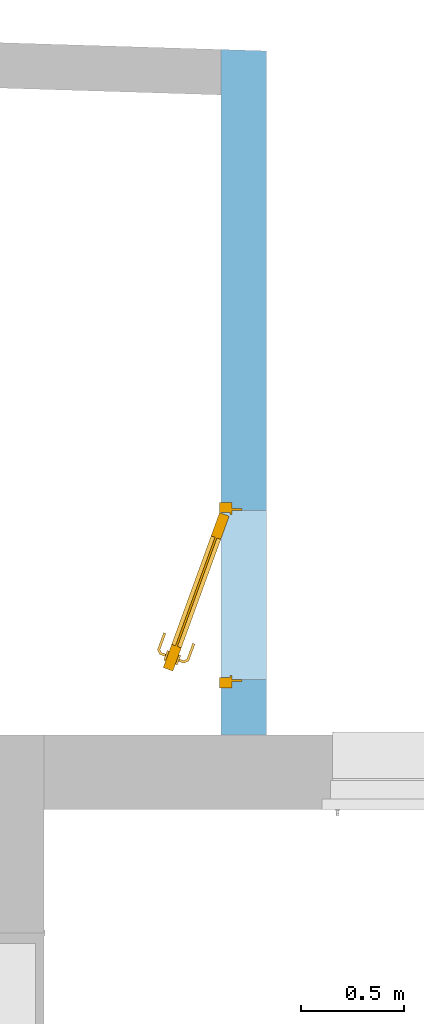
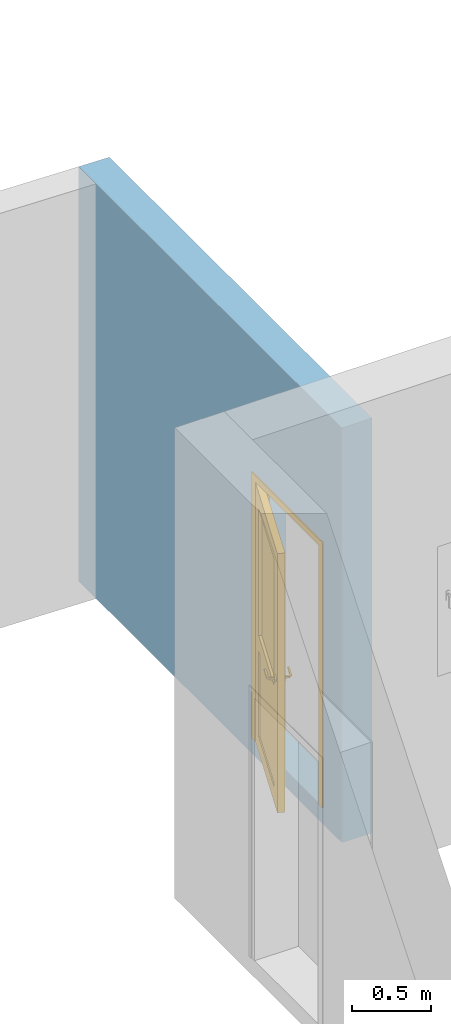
"""IFC2X3 building model written with IfcOpenShell, lengths in centimetres."""

from ifc_helpers import new_model, entity, si_unit, converted_unit, derived_unit, direction, frame, origin, place, context, subcontext, project, spatial, polyline, outline, extrude, faceted_brep, source, transform, mapped, material, material_list, layer, layer_set, layer_usage, type_object, type_shapes, element, fill, save


model = new_model("IFC2X3")

# Units and contexts
model_context = context("Model", 3, precision=0.001, world=origin(), true_north=direction((6.123031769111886e-17, 1.0)))
body_context = subcontext(model_context, "Body", "Model", "MODEL_VIEW")
ifc_project = project(units=[si_unit("LENGTHUNIT", "METRE", prefix="CENTI"), si_unit("AREAUNIT", "SQUARE_METRE"), si_unit("VOLUMEUNIT", "CUBIC_METRE"), converted_unit("PLANEANGLEUNIT", "DEGREE", entity("IfcRatioMeasure", 0.017453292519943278), si_unit("PLANEANGLEUNIT", "RADIAN"), dimensions=[0, 0, 0, 0, 0, 0, 0]), si_unit("MASSUNIT", "GRAM", prefix="KILO"), derived_unit("MASSDENSITYUNIT", [(si_unit("MASSUNIT", "GRAM", prefix="KILO"), 1), (si_unit("LENGTHUNIT", "METRE"), -3)]), derived_unit("MOMENTOFINERTIAUNIT", [(si_unit("LENGTHUNIT", "METRE"), 4)]), si_unit("TIMEUNIT", "SECOND"), si_unit("FREQUENCYUNIT", "HERTZ"), si_unit("THERMODYNAMICTEMPERATUREUNIT", "DEGREE_CELSIUS"), derived_unit("THERMALTRANSMITTANCEUNIT", [(si_unit("MASSUNIT", "GRAM", prefix="KILO"), 1), (si_unit("THERMODYNAMICTEMPERATUREUNIT", "KELVIN"), -1), (si_unit("TIMEUNIT", "SECOND"), -3)]), derived_unit("THERMALCONDUCTANCEUNIT", [(si_unit("MASSUNIT", "GRAM", prefix="KILO"), 1), (si_unit("LENGTHUNIT", "METRE"), 1), (si_unit("THERMODYNAMICTEMPERATUREUNIT", "KELVIN"), -1), (si_unit("TIMEUNIT", "SECOND"), -3)]), derived_unit("VOLUMETRICFLOWRATEUNIT", [(si_unit("LENGTHUNIT", "METRE"), 3), (si_unit("TIMEUNIT", "SECOND"), -1)]), derived_unit("MASSFLOWRATEUNIT", [(si_unit("MASSUNIT", "GRAM", prefix="KILO"), 1), (si_unit("TIMEUNIT", "SECOND"), -1)]), derived_unit("ROTATIONALFREQUENCYUNIT", [(si_unit("TIMEUNIT", "SECOND"), -1)]), si_unit("ELECTRICCURRENTUNIT", "AMPERE"), si_unit("ELECTRICVOLTAGEUNIT", "VOLT"), si_unit("POWERUNIT", "WATT"), si_unit("FORCEUNIT", "NEWTON", prefix="KILO"), si_unit("ILLUMINANCEUNIT", "LUX"), si_unit("LUMINOUSFLUXUNIT", "LUMEN"), si_unit("LUMINOUSINTENSITYUNIT", "CANDELA"), derived_unit("USERDEFINED", [(si_unit("MASSUNIT", "GRAM", prefix="KILO"), -1), (si_unit("LENGTHUNIT", "METRE"), -2), (si_unit("TIMEUNIT", "SECOND"), 3), (si_unit("LUMINOUSFLUXUNIT", "LUMEN"), 1)]), derived_unit("USERDEFINED", [(si_unit("MASSUNIT", "GRAM", prefix="KILO"), 1), (si_unit("LENGTHUNIT", "METRE"), 3), (si_unit("TIMEUNIT", "SECOND"), -3), (si_unit("ELECTRICCURRENTUNIT", "AMPERE"), -2)]), derived_unit("USERDEFINED", [(si_unit("LENGTHUNIT", "METRE"), 2), (si_unit("TIMEUNIT", "SECOND"), -2)]), derived_unit("SOUNDPOWERUNIT", [(si_unit("MASSUNIT", "GRAM", prefix="KILO"), 1), (si_unit("LENGTHUNIT", "METRE"), 2), (si_unit("TIMEUNIT", "SECOND"), -3)]), derived_unit("SOUNDPRESSUREUNIT", [(si_unit("MASSUNIT", "GRAM", prefix="KILO"), 1), (si_unit("LENGTHUNIT", "METRE"), -1), (si_unit("TIMEUNIT", "SECOND"), -2)]), derived_unit("LINEARVELOCITYUNIT", [(si_unit("LENGTHUNIT", "METRE"), 1), (si_unit("TIMEUNIT", "SECOND"), -1)]), si_unit("PRESSUREUNIT", "PASCAL"), derived_unit("USERDEFINED", [(si_unit("LENGTHUNIT", "METRE"), -2), (si_unit("MASSUNIT", "GRAM", prefix="KILO"), 1), (si_unit("TIMEUNIT", "SECOND"), -2)]), derived_unit("LINEARFORCEUNIT", [(si_unit("MASSUNIT", "GRAM", prefix="KILO"), 1), (si_unit("LENGTHUNIT", "METRE"), 1), (si_unit("TIMEUNIT", "SECOND"), -2), (si_unit("LENGTHUNIT", "METRE"), -1)]), derived_unit("PLANARFORCEUNIT", [(si_unit("MASSUNIT", "GRAM", prefix="KILO"), 1), (si_unit("LENGTHUNIT", "METRE"), 1), (si_unit("TIMEUNIT", "SECOND"), -2), (si_unit("LENGTHUNIT", "METRE"), -2)]), derived_unit("SPECIFICHEATCAPACITYUNIT", [(si_unit("LENGTHUNIT", "METRE"), 2), (si_unit("TIMEUNIT", "SECOND"), -2), (si_unit("THERMODYNAMICTEMPERATUREUNIT", "KELVIN"), -1)]), derived_unit("VAPORPERMEABILITYUNIT", [(si_unit("TIMEUNIT", "SECOND"), 1), (si_unit("LENGTHUNIT", "METRE"), -1)]), derived_unit("DYNAMICVISCOSITYUNIT", [(si_unit("MASSUNIT", "GRAM", prefix="KILO"), 1), (si_unit("LENGTHUNIT", "METRE"), -1), (si_unit("TIMEUNIT", "SECOND"), -1)]), derived_unit("THERMALEXPANSIONCOEFFICIENTUNIT", [(si_unit("THERMODYNAMICTEMPERATUREUNIT", "KELVIN"), -1)])], contexts=[model_context])

# Site, building, storey
site_placement = place(None, origin())
site = spatial("IfcSite", under=ifc_project, at=site_placement, Name="Default", CompositionType="ELEMENT")
building_placement = place(site_placement, origin())
building = spatial("IfcBuilding", under=site, at=building_placement, CompositionType="ELEMENT")
storey_1_placement = place(building_placement, frame((0.0, 0.0, -13.0)))
storey_1 = spatial("IfcBuildingStorey", under=building, at=storey_1_placement, Name="0_-0.13", CompositionType="ELEMENT", Elevation=-13.000000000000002)

# Wall, opening
ifc_material_1 = material(Name="Maçonnerie - Enduit")
ifc_layer_1 = layer(ifc_material_1, 2.0)
ifc_material_2 = material(Name="Maçonnerie - Béton")
ifc_layer_2 = layer(ifc_material_2, 20.0)
ifc_layer_set = layer_set([ifc_layer_1, ifc_layer_2], Name="Mur de base:Mur extérieur 22cm")
ifc_layer_usage = layer_usage(ifc_layer_set, "AXIS2", "POSITIVE", -11.0)
wall_type = type_object("IfcWallType", Name="Mur de base:Mur extérieur 22cm", PredefinedType="STANDARD", material=ifc_layer_set)
wall_placement = place(storey_1_placement, frame((-589.0684437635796, 378.64664587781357, 0.0), z_axis=(0.0, 0.0, 1.0), x_axis=(0.0, 1.0, 0.0)))
wall = element("IfcWallStandardCase", 1, at=wall_placement, inside=storey_1, type_object=wall_type, material=ifc_layer_usage, Name="Mur de base:Mur extérieur 22cm", ObjectType="Mur de base:Mur extérieur 22cm", context=body_context, shape_type="SweptSolid", body=[
    extrude(outline(polyline([(332.0, -11.0), (332.6818181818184, 11.0), (310.67125535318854, 11.0), (0.0, 11.0), (0.0, -11.0), (332.0, -11.0)])), origin(), (0.0, 0.0, 1.0), 320.0),
])
opening_placement = place(wall_placement, frame((23.0, 41.0, 13.0), z_axis=(0.0, 0.0, 1.0), x_axis=(0.0, -1.0, 0.0)))
opening = element("IfcOpeningElement", 2, at=opening_placement, cuts=wall, Name="Mur de base:Mur extérieur 22cm", ObjectType="Opening", context=body_context, shape_type="Brep", body=[
    faceted_brep([(0.0, 86.0, 201.0), (0.0, 4.0, 201.0), (29.200000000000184, 4.0, 201.0), (29.20000000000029, 86.0, 201.0), (82.0, 86.0, 0.0), (82.0, 4.0, 0.0), (40.0, 4.0, 0.0), (40.0, 3.0, 0.0), (35.20000000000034, 3.0, 0.0), (35.20000000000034, 0.0, 0.0), (29.200000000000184, 0.0, 0.0), (29.200000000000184, 4.0, 0.0), (0.0, 4.0, 0.0), (0.0, 86.0, 0.0), (29.20000000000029, 86.0, 0.0), (29.20000000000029, 90.0, 0.0), (35.20000000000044, 90.0, 0.0), (35.20000000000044, 87.0, 0.0), (40.0, 87.0, 0.0), (40.0, 86.0, 0.0), (82.0, 86.0, 201.0), (82.0, 4.0, 201.0), (40.0, 4.0, 201.0), (35.20000000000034, 3.0, 202.0), (35.20000000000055, 87.0, 202.0), (35.20000000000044, 90.0, 205.0), (35.20000000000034, 0.0, 205.0), (40.0, 3.0, 202.0), (40.0, 86.0, 201.0), (40.0, 87.0, 202.0), (29.200000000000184, 0.0, 205.0), (29.2000000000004, 90.0, 205.0)], [[[0, 1, 2, 3]], [[4, 5, 6, 7, 8, 9, 10, 11, 12, 13, 14, 15, 16, 17, 18, 19]], [[13, 0, 3, 14]], [[20, 21, 5, 4]], [[5, 21, 22, 6]], [[1, 0, 13, 12]], [[9, 8, 23, 24, 17, 16, 25, 26]], [[8, 7, 27, 23]], [[7, 6, 22, 28, 19, 18, 29, 27]], [[11, 10, 30, 31, 15, 14, 3, 2]], [[10, 9, 26, 30]], [[24, 23, 27, 29]], [[26, 25, 31, 30]], [[17, 24, 29, 18]], [[25, 16, 15, 31]], [[1, 12, 11, 2]], [[20, 4, 19, 28]], [[21, 20, 28, 22]]]),
])

# Storey
storey_2_placement = place(building_placement, origin())
storey_2 = spatial("IfcBuildingStorey", under=building, at=storey_2_placement, Name="1_Rez-de-chaussée", CompositionType="ELEMENT", Elevation=0.0)

# Door
ifc_material_3 = material(Name="PVC - Blanc")
ifc_material_4 = material(Name="Verre")
ifc_material_list = material_list([ifc_material_3, ifc_material_4])
door_style = type_object("IfcDoorStyle", Name="Ext. Simple:Vitrée haut - 0.80 m x 2.00 m", ConstructionType="NOTDEFINED", OperationType="SINGLE_SWING_LEFT", ParameterTakesPrecedence=False, Sizeable=False, material=ifc_material_list)
shared_shape = source(origin(), body_context, "Body", "Brep", [
    faceted_brep([(74.53407623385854, 27.155428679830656, 98.23223304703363), (75.02061801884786, 26.978341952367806, 97.83493649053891), (75.58720792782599, 26.772120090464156, 97.58518543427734), (76.19523379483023, 26.55081677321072, 97.5), (76.80325966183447, 26.32951345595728, 97.58518543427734), (77.3698495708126, 26.12329159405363, 97.83493649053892), (77.8563913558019, 25.946204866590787, 98.23223304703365), (78.22972799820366, 25.81032144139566, 98.75000000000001), (78.46441722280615, 25.724901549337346, 99.35295238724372), (78.544465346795, 25.69576641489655, 100.0), (78.46441722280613, 25.724901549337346, 100.64704761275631), (78.22972799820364, 25.810321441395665, 101.25), (77.8563913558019, 25.946204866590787, 101.76776695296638), (77.3698495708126, 26.123291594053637, 102.1650635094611), (76.80325966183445, 26.32951345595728, 102.41481456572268), (76.19523379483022, 26.550816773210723, 102.5), (75.58720792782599, 26.772120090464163, 102.41481456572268), (75.02061801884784, 26.978341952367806, 102.1650635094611), (74.53407623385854, 27.155428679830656, 101.76776695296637), (74.16073959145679, 27.291312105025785, 101.25), (73.9260503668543, 27.376731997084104, 100.64704761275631), (73.84600224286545, 27.405867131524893, 100.0), (73.92605036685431, 27.376731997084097, 99.35295238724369), (74.16073959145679, 27.291312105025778, 98.74999999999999), (76.5372539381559, 27.490509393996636, 102.5), (77.14527980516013, 27.26920607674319, 102.41481456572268), (77.71186971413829, 27.06298421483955, 102.1650635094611), (78.19841149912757, 26.885897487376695, 101.76776695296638), (78.57174814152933, 26.750014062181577, 101.25), (78.80643736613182, 26.664594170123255, 100.64704761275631), (78.88648549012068, 26.63545903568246, 100.0), (78.80643736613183, 26.664594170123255, 99.35295238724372), (78.57174814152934, 26.75001406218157, 98.75000000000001), (78.19841149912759, 26.885897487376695, 98.23223304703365), (77.71186971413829, 27.062984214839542, 97.83493649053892), (77.14527980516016, 27.26920607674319, 97.58518543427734), (76.53725393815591, 27.49050939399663, 97.5), (75.92922807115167, 27.71181271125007, 97.58518543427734), (75.36263816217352, 27.918034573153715, 97.83493649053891), (74.87609637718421, 28.09512130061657, 98.23223304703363), (74.50275973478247, 28.231004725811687, 98.74999999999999), (74.26807051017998, 28.31642461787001, 99.35295238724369), (74.18802238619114, 28.345559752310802, 100.0), (74.26807051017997, 28.316424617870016, 100.64704761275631), (74.50275973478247, 28.231004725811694, 101.25), (74.87609637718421, 28.09512130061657, 101.76776695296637), (75.36263816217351, 27.918034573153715, 102.1650635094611), (75.92922807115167, 27.711812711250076, 102.41481456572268)], [[[0, 1, 2, 3, 4, 5, 6, 7, 8, 9, 10, 11, 12, 13, 14, 15, 16, 17, 18, 19, 20, 21, 22, 23]], [[24, 25, 26, 27, 28, 29, 30, 31, 32, 33, 34, 35, 36, 37, 38, 39, 40, 41, 42, 43, 44, 45, 46, 47]], [[30, 9, 8, 31]], [[31, 8, 7, 32]], [[34, 33, 6, 5]], [[6, 33, 32, 7]], [[35, 34, 5, 4]], [[35, 4, 3, 36]], [[36, 3, 2, 37]], [[37, 2, 1, 38]], [[40, 39, 0, 23]], [[0, 39, 38, 1]], [[41, 40, 23, 22]], [[41, 22, 21, 42]], [[42, 21, 20, 43]], [[43, 20, 19, 44]], [[46, 45, 18, 17]], [[18, 45, 44, 19]], [[47, 46, 17, 16]], [[47, 16, 15, 24]], [[24, 15, 14, 25]], [[25, 14, 13, 26]], [[28, 27, 12, 11]], [[12, 27, 26, 13]], [[29, 28, 11, 10]], [[29, 10, 9, 30]]]),
    faceted_brep([(76.58619709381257, 32.79358440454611, 98.23223304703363), (77.07273887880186, 32.61649767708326, 97.83493649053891), (77.63932878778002, 32.41027581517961, 97.58518543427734), (78.24735465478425, 32.18897249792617, 97.5), (78.85538052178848, 31.96766918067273, 97.58518543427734), (79.42197043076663, 31.761447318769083, 97.83493649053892), (79.90851221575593, 31.584360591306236, 98.23223304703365), (80.28184885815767, 31.44847716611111, 98.75000000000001), (80.51653808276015, 31.363057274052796, 99.35295238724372), (80.59658620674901, 31.333922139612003, 100.0), (80.51653808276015, 31.363057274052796, 100.64704761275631), (80.28184885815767, 31.448477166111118, 101.25), (79.90851221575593, 31.584360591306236, 101.76776695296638), (79.4219704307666, 31.76144731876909, 102.1650635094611), (78.85538052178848, 31.96766918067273, 102.41481456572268), (78.24735465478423, 32.18897249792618, 102.5), (77.63932878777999, 32.41027581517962, 102.41481456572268), (77.07273887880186, 32.61649767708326, 102.1650635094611), (76.58619709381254, 32.79358440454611, 101.76776695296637), (76.2128604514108, 32.929467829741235, 101.25), (75.97817122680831, 33.01488772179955, 100.64704761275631), (75.89812310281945, 33.044022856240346, 100.0), (75.97817122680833, 33.01488772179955, 99.35295238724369), (76.2128604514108, 32.92946782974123, 98.74999999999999), (78.5893747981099, 33.128665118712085, 102.5), (79.19740066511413, 32.90736180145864, 102.41481456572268), (79.76399057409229, 32.701139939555, 102.1650635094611), (80.25053235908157, 32.52405321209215, 101.76776695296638), (80.62386900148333, 32.38816978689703, 101.25), (80.85855822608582, 32.302749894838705, 100.64704761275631), (80.93860635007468, 32.27361476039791, 100.0), (80.85855822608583, 32.302749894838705, 99.35295238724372), (80.62386900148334, 32.38816978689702, 98.75000000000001), (80.25053235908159, 32.52405321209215, 98.23223304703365), (79.76399057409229, 32.70113993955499, 97.83493649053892), (79.19740066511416, 32.90736180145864, 97.58518543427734), (78.58937479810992, 33.12866511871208, 97.5), (77.98134893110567, 33.34996843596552, 97.58518543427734), (77.41475902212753, 33.55619029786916, 97.83493649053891), (76.92821723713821, 33.73327702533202, 98.23223304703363), (76.55488059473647, 33.86916045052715, 98.74999999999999), (76.320191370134, 33.954580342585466, 99.35295238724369), (76.24014324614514, 33.98371547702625, 100.0), (76.32019137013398, 33.954580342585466, 100.64704761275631), (76.55488059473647, 33.86916045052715, 101.25), (76.92821723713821, 33.73327702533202, 101.76776695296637), (77.41475902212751, 33.55619029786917, 102.1650635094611), (77.98134893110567, 33.34996843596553, 102.41481456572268)], [[[0, 1, 2, 3, 4, 5, 6, 7, 8, 9, 10, 11, 12, 13, 14, 15, 16, 17, 18, 19, 20, 21, 22, 23]], [[24, 25, 26, 27, 28, 29, 30, 31, 32, 33, 34, 35, 36, 37, 38, 39, 40, 41, 42, 43, 44, 45, 46, 47]], [[30, 9, 8, 31]], [[31, 8, 7, 32]], [[34, 33, 6, 5]], [[6, 33, 32, 7]], [[35, 34, 5, 4]], [[35, 4, 3, 36]], [[36, 3, 2, 37]], [[37, 2, 1, 38]], [[40, 39, 0, 23]], [[0, 39, 38, 1]], [[41, 40, 23, 22]], [[41, 22, 21, 42]], [[42, 21, 20, 43]], [[43, 20, 19, 44]], [[46, 45, 18, 17]], [[18, 45, 44, 19]], [[47, 46, 17, 16]], [[47, 16, 15, 24]], [[24, 15, 14, 25]], [[25, 14, 13, 26]], [[28, 27, 12, 11]], [[12, 27, 26, 13]], [[29, 28, 11, 10]], [[29, 10, 9, 30]]]),
    faceted_brep([(76.00491797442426, 26.620086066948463, 100.77804408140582), (76.38554961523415, 26.481547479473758, 100.77804408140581), (76.75904936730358, 26.34560468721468, 100.69999999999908), (76.7590493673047, 26.345604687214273, 99.29999999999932), (76.38554961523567, 26.48154747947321, 99.22195591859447), (76.00491797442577, 26.620086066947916, 99.2219559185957), (75.63141822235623, 26.75602885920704, 99.30000000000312), (75.63141822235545, 26.756028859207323, 100.69999999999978), (75.49614075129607, 24.037916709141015, 100.77804408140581), (75.81333115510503, 23.747265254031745, 100.69999999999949), (75.1728936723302, 24.33411808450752, 100.77804408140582), (73.4200106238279, 23.51673529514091, 100.77804408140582), (73.43913482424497, 23.07871909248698, 100.77804408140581), (74.85570326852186, 24.624769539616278, 100.69999999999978), (74.85570326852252, 24.62476953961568, 99.30000000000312), (75.17289367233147, 24.334118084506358, 99.2219559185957), (75.49614075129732, 24.037916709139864, 99.22195591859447), (73.43913482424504, 23.078719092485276, 99.22195591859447), (73.42001062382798, 23.516735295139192, 99.2219559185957), (75.81333115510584, 23.747265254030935, 99.29999999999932), (73.45790069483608, 22.64890999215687, 100.69999999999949), (73.40124475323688, 23.94654439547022, 100.69999999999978), (73.40124475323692, 23.94654439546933, 99.30000000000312), (73.4579006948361, 22.648909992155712, 99.29999999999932), (65.22230013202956, 25.64642345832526, 100.6999999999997), (65.35824292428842, 26.019923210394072, 100.77804408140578), (65.49678151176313, 26.400554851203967, 100.7780440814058), (65.6327243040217, 26.774054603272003, 100.69999999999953), (65.63272430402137, 26.77405460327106, 99.30000000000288), (65.49678151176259, 26.400554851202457, 99.22195591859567), (65.35824292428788, 26.019923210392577, 99.22195591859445), (65.22230013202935, 25.64642345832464, 99.29999999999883), (69.38912677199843, 24.768329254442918, 100.7878686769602), (69.70566227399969, 24.01461308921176, 100.69999999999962), (69.51698452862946, 25.360299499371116, 100.69999999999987), (69.51698452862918, 25.360299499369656, 99.3000000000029), (69.38912678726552, 24.768329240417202, 99.2121313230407), (69.70566098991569, 24.014613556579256, 99.2999999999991)], [[[0, 1, 2, 3, 4, 5, 6, 7]], [[2, 1, 8, 9]], [[1, 0, 10, 11, 12, 8]], [[0, 7, 13, 10]], [[14, 13, 7, 6]], [[5, 15, 14, 6]], [[5, 4, 16, 17, 18, 15]], [[3, 19, 16, 4]], [[9, 19, 3, 2]], [[9, 8, 12, 20]], [[10, 13, 21, 11]], [[22, 21, 13, 14]], [[14, 15, 18, 22]], [[16, 19, 23, 17]], [[20, 23, 19, 9]], [[24, 25, 26, 27, 28, 29, 30, 31]], [[32, 25, 33]], [[33, 25, 24]], [[33, 20, 12]], [[11, 34, 32]], [[34, 11, 21]], [[27, 26, 34]], [[32, 26, 25]], [[32, 34, 26]], [[32, 33, 12]], [[11, 32, 12]], [[21, 22, 35, 28, 27, 34]], [[36, 29, 35]], [[30, 36, 37]], [[18, 35, 22]], [[29, 28, 35]], [[30, 37, 31]], [[37, 17, 23]], [[36, 17, 37]], [[36, 18, 17]], [[36, 35, 18]], [[29, 36, 30]], [[23, 20, 33, 24, 31, 37]]]),
    faceted_brep([(78.39905897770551, 33.19793441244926, 99.2219559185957), (78.77969061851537, 33.05939582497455, 99.22195591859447), (79.15319037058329, 32.923453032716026, 99.29999999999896), (79.15319037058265, 32.92345303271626, 100.69999999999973), (78.77969061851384, 33.05939582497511, 100.77804408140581), (78.39905897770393, 33.19793441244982, 100.77804408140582), (78.02555922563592, 33.333877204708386, 100.70000000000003), (78.02555922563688, 33.33387720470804, 99.30000000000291), (78.79459851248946, 35.44679528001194, 100.70000000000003), (78.79459851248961, 35.446795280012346, 99.30000000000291), (79.22440761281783, 35.465561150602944, 100.77804408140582), (79.66242381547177, 35.48468535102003, 100.77804408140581), (78.69500768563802, 37.559315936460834, 100.77804408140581), (78.39880631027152, 37.23606885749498, 100.77804408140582), (80.09223291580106, 35.50345122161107, 100.69999999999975), (80.0922329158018, 35.50345122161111, 99.29999999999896), (79.66242381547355, 35.484685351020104, 99.22195591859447), (79.22440761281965, 35.46556115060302, 99.2219559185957), (78.39880631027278, 37.236068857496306, 99.2219559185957), (78.69500768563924, 37.55931593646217, 99.22195591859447), (78.10815485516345, 36.91887845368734, 100.70000000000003), (78.10815485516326, 36.918878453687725, 99.30000000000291), (78.98565914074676, 37.87650634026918, 100.69999999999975), (78.98565914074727, 37.87650634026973, 99.29999999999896), (70.48594817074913, 40.11611368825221, 100.7780440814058), (70.62448675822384, 40.496745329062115, 100.77804408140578), (70.76042955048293, 40.87024508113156, 100.6999999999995), (70.76042955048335, 40.870245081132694, 99.29999999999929), (70.6244867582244, 40.49674532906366, 99.22195591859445), (70.4859481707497, 40.11611368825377, 99.22195591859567), (70.35000537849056, 39.7426139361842, 99.3000000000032), (70.35000537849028, 39.742613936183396, 100.69999999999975), (74.22908011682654, 38.33074619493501, 100.69999999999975), (74.22907899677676, 38.33074660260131, 99.30000000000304), (74.51164653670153, 38.866407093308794, 100.7878686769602), (75.23342072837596, 39.242209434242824, 100.69999999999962), (75.23342045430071, 39.24220953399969, 99.2999999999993), (74.51164651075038, 38.866407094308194, 99.2121313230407)], [[[0, 1, 2, 3, 4, 5, 6, 7]], [[8, 9, 7, 6]], [[5, 10, 8, 6]], [[5, 4, 11, 12, 13, 10]], [[3, 14, 11, 4]], [[14, 3, 2, 15]], [[2, 1, 16, 15]], [[1, 0, 17, 18, 19, 16]], [[0, 7, 9, 17]], [[20, 21, 9, 8]], [[8, 10, 13, 20]], [[14, 22, 12, 11]], [[23, 22, 14, 15]], [[15, 16, 19, 23]], [[17, 9, 21, 18]], [[24, 25, 26, 27, 28, 29, 30, 31]], [[20, 32, 31, 30, 33, 21]], [[34, 24, 32]], [[25, 34, 35]], [[13, 32, 20]], [[24, 31, 32]], [[25, 35, 26]], [[35, 12, 22]], [[34, 12, 35]], [[34, 13, 12]], [[34, 32, 13]], [[24, 34, 25]], [[22, 23, 36, 27, 26, 35]], [[37, 28, 36]], [[36, 28, 27]], [[36, 23, 19]], [[18, 33, 37]], [[33, 18, 21]], [[30, 29, 33]], [[37, 29, 28]], [[37, 33, 29]], [[37, 36, 19]], [[18, 37, 19]]]),
    faceted_brep([(19.302371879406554, 51.51483614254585, 188.0), (71.92515864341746, 32.361708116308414, 188.0), (71.92515864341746, 32.361708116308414, 90.0), (19.302371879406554, 51.51483614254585, 90.0), (18.960351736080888, 50.57514352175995, 188.0), (18.960351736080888, 50.57514352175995, 90.0), (71.5831385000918, 31.422015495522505, 90.0), (71.5831385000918, 31.422015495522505, 188.0)], [[[0, 1, 2, 3]], [[4, 5, 6, 7]], [[3, 5, 4, 0]], [[2, 6, 5, 3]], [[1, 7, 6, 2]], [[0, 4, 7, 1]]]),
    faceted_brep([(83.88551037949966, 30.136851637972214, 200.0), (83.88551037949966, 30.136851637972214, 0.0), (8.710100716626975, 57.498463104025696, 0.0), (8.710100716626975, 57.498463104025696, 200.0), (19.986412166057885, 53.39422138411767, 188.0), (19.986412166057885, 53.39422138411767, 90.0), (72.60919893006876, 34.24109335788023, 90.0), (72.60919893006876, 34.24109335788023, 188.0), (72.60919893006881, 34.24109335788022, 78.0), (19.986412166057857, 53.39422138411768, 78.0), (19.986412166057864, 53.39422138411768, 12.0), (72.60919893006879, 34.24109335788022, 12.0), (82.17540966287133, 25.438388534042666, 200.0), (7.0, 52.800000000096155, 200.0), (7.0, 52.800000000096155, 0.0), (82.17540966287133, 25.438388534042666, 0.0), (18.276311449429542, 48.69575828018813, 188.0), (70.89909821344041, 29.54263025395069, 188.0), (70.89909821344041, 29.54263025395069, 90.0), (18.276311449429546, 48.69575828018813, 90.0), (18.276311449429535, 48.69575828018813, 78.0), (70.89909821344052, 29.54263025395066, 78.0), (70.89909821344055, 29.54263025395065, 12.0), (18.276311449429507, 48.695758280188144, 12.0), (72.33558281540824, 33.4893392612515, 78.0), (72.33558281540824, 33.4893392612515, 12.0), (19.71279605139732, 52.64246728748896, 12.0), (19.71279605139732, 52.64246728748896, 78.0), (18.54992756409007, 49.44751237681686, 78.0), (18.54992756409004, 49.447512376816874, 12.0), (71.17271432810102, 30.294384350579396, 12.0), (71.17271432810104, 30.294384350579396, 78.0)], [[[0, 1, 2, 3], [4, 5, 6, 7], [8, 9, 10, 11]], [[12, 13, 14, 15], [16, 17, 18, 19], [20, 21, 22, 23]], [[3, 13, 12, 0]], [[2, 14, 13, 3]], [[1, 15, 14, 2]], [[0, 12, 15, 1]], [[7, 17, 16, 4]], [[6, 18, 17, 7]], [[5, 19, 18, 6]], [[4, 16, 19, 5]], [[24, 25, 26, 27]], [[24, 8, 11, 25]], [[25, 11, 10, 26]], [[26, 10, 9, 27]], [[27, 9, 8, 24]], [[28, 29, 30, 31]], [[28, 20, 23, 29]], [[29, 23, 22, 30]], [[30, 22, 21, 31]], [[31, 21, 20, 28]]]),
    faceted_brep([(92.0, 58.80000000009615, 0.0), (92.0, 52.800000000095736, 0.0), (87.0, 52.800000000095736, 0.0), (87.0, 57.800000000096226, 0.0), (86.0, 57.800000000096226, 0.0), (86.0, 58.80000000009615, 0.0), (88.0, 58.80000000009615, 0.0), (88.0, 63.60000000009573, 0.0), (89.0, 63.60000000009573, 0.0), (89.0, 58.80000000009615, 0.0), (89.0, 58.80000000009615, 202.0), (5.0, 58.80000000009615, 202.0), (5.0, 58.80000000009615, 0.0), (2.0, 58.80000000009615, 0.0), (2.0, 58.80000000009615, 205.0), (92.0, 58.80000000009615, 205.0), (89.0, 63.60000000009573, 202.0), (88.0, 63.60000000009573, 201.0), (6.0, 63.60000000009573, 201.0), (6.0, 63.60000000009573, 0.0), (5.0, 63.60000000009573, 0.0), (5.0, 63.60000000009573, 202.0), (88.0, 58.80000000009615, 201.0), (86.0, 58.80000000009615, 199.0), (8.0, 58.80000000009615, 199.0), (8.0, 58.80000000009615, 0.0), (6.0, 58.80000000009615, 0.0), (6.0, 58.80000000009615, 201.0), (86.0, 57.800000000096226, 199.0), (87.0, 57.800000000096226, 200.0), (7.0, 57.800000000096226, 200.0), (7.0, 57.800000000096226, 0.0), (8.0, 57.800000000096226, 0.0), (8.0, 57.800000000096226, 199.0), (87.0, 52.800000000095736, 200.0), (92.0, 52.800000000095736, 205.0), (2.0, 52.800000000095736, 205.0), (2.0, 52.800000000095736, 0.0), (7.0, 52.800000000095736, 0.0), (7.0, 52.800000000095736, 200.0)], [[[0, 1, 2, 3, 4, 5, 6, 7, 8, 9]], [[9, 10, 11, 12, 13, 14, 15, 0]], [[8, 16, 10, 9]], [[7, 17, 18, 19, 20, 21, 16, 8]], [[6, 22, 17, 7]], [[5, 23, 24, 25, 26, 27, 22, 6]], [[4, 28, 23, 5]], [[3, 29, 30, 31, 32, 33, 28, 4]], [[2, 34, 29, 3]], [[1, 35, 36, 37, 38, 39, 34, 2]], [[0, 15, 35, 1]], [[14, 13, 37, 36]], [[13, 12, 20, 19, 26, 25, 32, 31, 38, 37]], [[21, 20, 12, 11]], [[27, 26, 19, 18]], [[33, 32, 25, 24]], [[39, 38, 31, 30]], [[16, 21, 11, 10]], [[22, 27, 18, 17]], [[28, 33, 24, 23]], [[34, 39, 30, 29]], [[15, 14, 36, 35]]]),
])
type_shapes(door_style, [shared_shape])
door_placement = place(opening_placement, frame((-23.600000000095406, 92.0, 0.0), z_axis=(0.0, 0.0, 1.0), x_axis=(0.0, -1.0, 0.0)))
door = element("IfcDoor", 3, at=door_placement, inside=storey_2, type_object=door_style, material=ifc_material_list, Name="Ext. Simple:Vitrée haut - 0.80 m x 2.00 m", ObjectType="Ext. Simple:Vitrée haut - 0.80 m x 2.00 m", OverallHeight=205.00000000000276, OverallWidth=90.00000000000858, context=body_context, shape_type="MappedRepresentation", body=[
    mapped(shared_shape, transform((0.0, 0.0, 0.0), scale=1.0)),
])

fill(opening, door)

save(model, "model.ifc")
